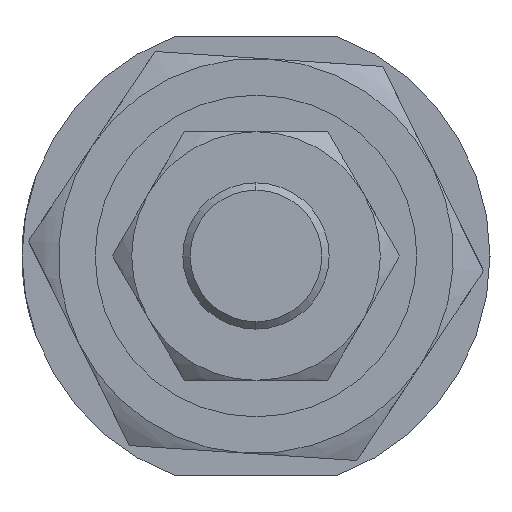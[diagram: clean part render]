
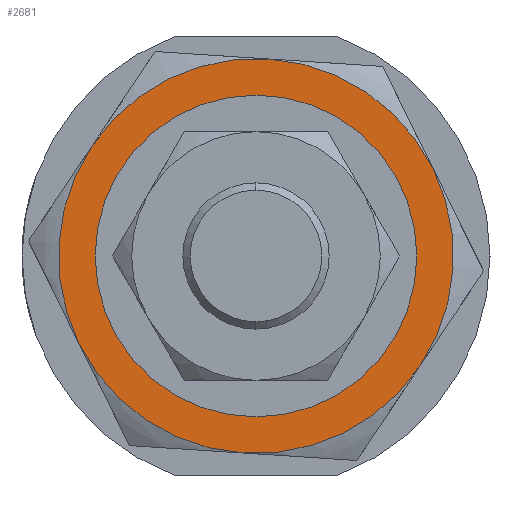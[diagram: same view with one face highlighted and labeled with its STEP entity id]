
A CAD part, left-side view. The second image highlights one B-rep face of the part: STEP entity #2681.
In plain terms, the highlighted planar face has unit normal (-1, 0, 0) as drawn and (0, 0, -1) by its records, which use the part's own axes.
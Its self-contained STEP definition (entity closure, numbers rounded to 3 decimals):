
#84 = VERTEX_POINT ( 'NONE', #457 ) ;
#104 = VERTEX_POINT ( 'NONE', #2376 ) ;
#155 = DIRECTION ( 'NONE',  ( 0., 0., 1. ) ) ;
#174 = CARTESIAN_POINT ( 'NONE',  ( -6.75, -11.691, -5. ) ) ;
#246 = EDGE_LOOP ( 'NONE', ( #1104, #987 ) ) ;
#249 = CARTESIAN_POINT ( 'NONE',  ( 0., 0., -5. ) ) ;
#281 = FACE_BOUND ( 'NONE', #246, .T. ) ;
#287 = DIRECTION ( 'NONE',  ( 1., 0., 0. ) ) ;
#332 = CIRCLE ( 'NONE', #2369, 13.5 ) ;
#408 = AXIS2_PLACEMENT_3D ( 'NONE', #1958, #1180, #287 ) ;
#457 = CARTESIAN_POINT ( 'NONE',  ( 6.75, -11.691, -5. ) ) ;
#501 = ORIENTED_EDGE ( 'NONE', *, *, #815, .F. ) ;
#510 = CIRCLE ( 'NONE', #3128, 13.5 ) ;
#543 = DIRECTION ( 'NONE',  ( 0., 0., 1. ) ) ;
#568 = CARTESIAN_POINT ( 'NONE',  ( 0., 0., -5. ) ) ;
#622 = CARTESIAN_POINT ( 'NONE',  ( -13.5, 0., -5. ) ) ;
#665 = VERTEX_POINT ( 'NONE', #843 ) ;
#692 = CARTESIAN_POINT ( 'NONE',  ( 0., 0., -5. ) ) ;
#703 = AXIS2_PLACEMENT_3D ( 'NONE', #692, #2071, #2601 ) ;
#723 = AXIS2_PLACEMENT_3D ( 'NONE', #1254, #3165, #2576 ) ;
#770 = CARTESIAN_POINT ( 'NONE',  ( 0., 0., -5. ) ) ;
#797 = PLANE ( 'NONE',  #2518 ) ;
#809 = EDGE_CURVE ( 'NONE', #821, #2957, #1315, .T. ) ;
#815 = EDGE_CURVE ( 'NONE', #665, #821, #510, .T. ) ;
#821 = VERTEX_POINT ( 'NONE', #622 ) ;
#843 = CARTESIAN_POINT ( 'NONE',  ( -6.75, 11.691, -5. ) ) ;
#987 = ORIENTED_EDGE ( 'NONE', *, *, #1566, .T. ) ;
#1056 = EDGE_LOOP ( 'NONE', ( #2764, #2342, #2940, #3159, #501, #2035 ) ) ;
#1104 = ORIENTED_EDGE ( 'NONE', *, *, #2980, .T. ) ;
#1160 = EDGE_CURVE ( 'NONE', #104, #665, #332, .T. ) ;
#1180 = DIRECTION ( 'NONE',  ( 0., 0., 1. ) ) ;
#1234 = VERTEX_POINT ( 'NONE', #1266 ) ;
#1248 = AXIS2_PLACEMENT_3D ( 'NONE', #770, #1978, #2676 ) ;
#1254 = CARTESIAN_POINT ( 'NONE',  ( 0., 0., -5. ) ) ;
#1266 = CARTESIAN_POINT ( 'NONE',  ( -10., 0., -5. ) ) ;
#1315 = CIRCLE ( 'NONE', #723, 13.5 ) ;
#1380 = FACE_OUTER_BOUND ( 'NONE', #1056, .T. ) ;
#1566 = EDGE_CURVE ( 'NONE', #1234, #3035, #3071, .T. ) ;
#1585 = VERTEX_POINT ( 'NONE', #2753 ) ;
#1803 = CARTESIAN_POINT ( 'NONE',  ( 0., 0., -5. ) ) ;
#1958 = CARTESIAN_POINT ( 'NONE',  ( 0., 0., -5. ) ) ;
#1978 = DIRECTION ( 'NONE',  ( 0., 0., 1. ) ) ;
#2035 = ORIENTED_EDGE ( 'NONE', *, *, #1160, .F. ) ;
#2071 = DIRECTION ( 'NONE',  ( 0., 0., 1. ) ) ;
#2096 = DIRECTION ( 'NONE',  ( 1., 0., 0. ) ) ;
#2136 = CARTESIAN_POINT ( 'NONE',  ( 0., 0., -5. ) ) ;
#2141 = CIRCLE ( 'NONE', #408, 10. ) ;
#2170 = CIRCLE ( 'NONE', #3347, 13.5 ) ;
#2202 = CIRCLE ( 'NONE', #2654, 13.5 ) ;
#2335 = DIRECTION ( 'NONE',  ( 1., 0., 0. ) ) ;
#2342 = ORIENTED_EDGE ( 'NONE', *, *, #2444, .F. ) ;
#2357 = CIRCLE ( 'NONE', #703, 13.5 ) ;
#2369 = AXIS2_PLACEMENT_3D ( 'NONE', #249, #2612, #2672 ) ;
#2376 = CARTESIAN_POINT ( 'NONE',  ( 6.75, 11.691, -5. ) ) ;
#2428 = DIRECTION ( 'NONE',  ( 1., 0., 0. ) ) ;
#2444 = EDGE_CURVE ( 'NONE', #84, #1585, #2357, .T. ) ;
#2518 = AXIS2_PLACEMENT_3D ( 'NONE', #568, #2969, #2428 ) ;
#2576 = DIRECTION ( 'NONE',  ( 1., 0., 0. ) ) ;
#2599 = CARTESIAN_POINT ( 'NONE',  ( 10., 0., -5. ) ) ;
#2601 = DIRECTION ( 'NONE',  ( 1., 0., 0. ) ) ;
#2612 = DIRECTION ( 'NONE',  ( 0., 0., 1. ) ) ;
#2654 = AXIS2_PLACEMENT_3D ( 'NONE', #1803, #3203, #2335 ) ;
#2672 = DIRECTION ( 'NONE',  ( 1., 0., 0. ) ) ;
#2676 = DIRECTION ( 'NONE',  ( 1., 0., 0. ) ) ;
#2681 = ADVANCED_FACE ( 'NONE', ( #281, #1380 ), #797, .F. ) ;
#2753 = CARTESIAN_POINT ( 'NONE',  ( 13.5, 0., -5. ) ) ;
#2764 = ORIENTED_EDGE ( 'NONE', *, *, #3332, .F. ) ;
#2775 = DIRECTION ( 'NONE',  ( 1., 0., 0. ) ) ;
#2846 = CARTESIAN_POINT ( 'NONE',  ( 0., 0., -5. ) ) ;
#2940 = ORIENTED_EDGE ( 'NONE', *, *, #3264, .F. ) ;
#2957 = VERTEX_POINT ( 'NONE', #174 ) ;
#2969 = DIRECTION ( 'NONE',  ( 0., 0., 1. ) ) ;
#2980 = EDGE_CURVE ( 'NONE', #3035, #1234, #2141, .T. ) ;
#3035 = VERTEX_POINT ( 'NONE', #2599 ) ;
#3071 = CIRCLE ( 'NONE', #1248, 10. ) ;
#3128 = AXIS2_PLACEMENT_3D ( 'NONE', #2846, #155, #2096 ) ;
#3159 = ORIENTED_EDGE ( 'NONE', *, *, #809, .F. ) ;
#3165 = DIRECTION ( 'NONE',  ( 0., 0., 1. ) ) ;
#3203 = DIRECTION ( 'NONE',  ( 0., 0., 1. ) ) ;
#3264 = EDGE_CURVE ( 'NONE', #2957, #84, #2202, .T. ) ;
#3332 = EDGE_CURVE ( 'NONE', #1585, #104, #2170, .T. ) ;
#3347 = AXIS2_PLACEMENT_3D ( 'NONE', #2136, #543, #2775 ) ;
